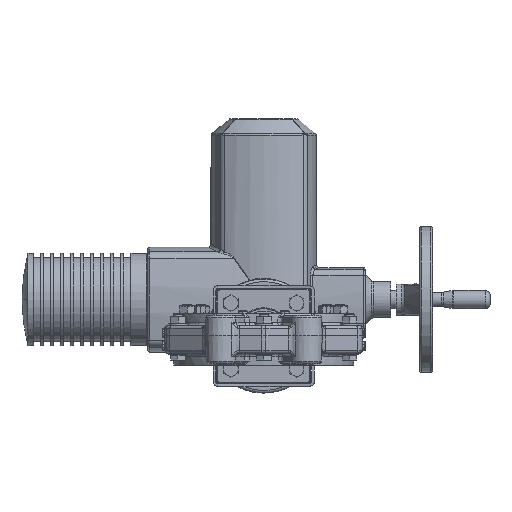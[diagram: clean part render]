
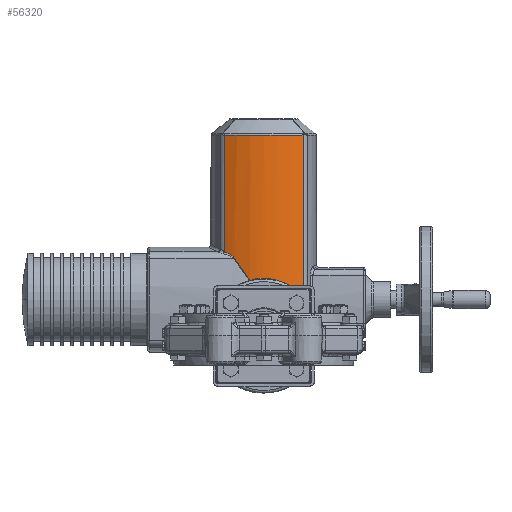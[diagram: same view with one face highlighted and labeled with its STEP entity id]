
A CAD part, front view. The second image highlights one B-rep face of the part: STEP entity #56320.
In plain terms, the highlighted cylindrical face has radius 100 mm (diameter 200 mm), a partial arc.
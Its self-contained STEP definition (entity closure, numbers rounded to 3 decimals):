
#1783 = VERTEX_POINT ( 'NONE', #87740 ) ;
#3757 = DIRECTION ( 'NONE',  ( -1., 0., 0. ) ) ;
#5145 = LINE ( 'NONE', #8632, #95903 ) ;
#8632 = CARTESIAN_POINT ( 'NONE',  ( 43.041, 515.737, 237.75 ) ) ;
#10654 = CARTESIAN_POINT ( 'NONE',  ( -5.794, 506.161, 62.927 ) ) ;
#11177 = CARTESIAN_POINT ( 'NONE',  ( 23.143, 508.713, 57.404 ) ) ;
#13223 = VERTEX_POINT ( 'NONE', #15262 ) ;
#14229 = EDGE_CURVE ( 'NONE', #56483, #71520, #28510, .T. ) ;
#15262 = CARTESIAN_POINT ( 'NONE',  ( 43.041, 515.737, 44.194 ) ) ;
#22304 = CARTESIAN_POINT ( 'NONE',  ( -43.041, 515.737, 92.391 ) ) ;
#22507 = CARTESIAN_POINT ( 'NONE',  ( -2.243, 506.018, 63.226 ) ) ;
#23015 = CARTESIAN_POINT ( 'NONE',  ( 24.662, 509.087, 56.561 ) ) ;
#23443 = CARTESIAN_POINT ( 'NONE',  ( -39.094, 513.952, 90.65 ) ) ;
#28497 = CARTESIAN_POINT ( 'NONE',  ( 38.764, 513.818, 46.82 ) ) ;
#28510 = LINE ( 'NONE', #49576, #60045 ) ;
#29827 = FACE_OUTER_BOUND ( 'NONE', #41028, .T. ) ;
#31120 = CARTESIAN_POINT ( 'NONE',  ( 36.862, 513.041, 47.327 ) ) ;
#31451 = AXIS2_PLACEMENT_3D ( 'NONE', #44647, #127582, #56555 ) ;
#31632 = CARTESIAN_POINT ( 'NONE',  ( 37.328, 513.227, 47.213 ) ) ;
#32272 = ORIENTED_EDGE ( 'NONE', *, *, #112532, .F. ) ;
#32645 = VERTEX_POINT ( 'NONE', #69737 ) ;
#33844 = CARTESIAN_POINT ( 'NONE',  ( -12.724, 506.787, 61.609 ) ) ;
#34367 = CARTESIAN_POINT ( 'NONE',  ( 3.673, 506.04, 63.181 ) ) ;
#34904 = CARTESIAN_POINT ( 'NONE',  ( 27.641, 509.874, 54.766 ) ) ;
#34988 = ORIENTED_EDGE ( 'NONE', *, *, #54579, .T. ) ;
#35322 = CARTESIAN_POINT ( 'NONE',  ( -36.228, 512.787, 89.011 ) ) ;
#35571 = B_SPLINE_CURVE_WITH_KNOTS ( 'NONE', 3,
 ( #146664, #75655, #28497, #111458, #40426, #123375, #52352, #135284 ),
 .UNSPECIFIED., .F., .F.,
 ( 4, 2, 2, 4 ),
 ( 0., 0.002, 0.003, 0.007 ),
 .UNSPECIFIED. ) ;
#39351 = ORIENTED_EDGE ( 'NONE', *, *, #122090, .T. ) ;
#40426 = CARTESIAN_POINT ( 'NONE',  ( 40.164, 514.419, 46.232 ) ) ;
#41028 = EDGE_LOOP ( 'NONE', ( #124566, #121531, #76295, #135387, #34988, #47719, #32272, #39351 ) ) ;
#43363 = CARTESIAN_POINT ( 'NONE',  ( -14.967, 507.126, 60.881 ) ) ;
#44647 = CARTESIAN_POINT ( 'NONE',  ( 0., 606., 220.035 ) ) ;
#46320 = CARTESIAN_POINT ( 'NONE',  ( 8.354, 506.343, 62.546 ) ) ;
#46525 = CARTESIAN_POINT ( 'NONE',  ( -14.967, 507.126, 60.881 ) ) ;
#46530 = CYLINDRICAL_SURFACE ( 'NONE', #63464, 100. ) ;
#46830 = CARTESIAN_POINT ( 'NONE',  ( 33.093, 511.616, 50.604 ) ) ;
#47160 = EDGE_CURVE ( 'NONE', #151602, #1783, #58113, .T. ) ;
#47274 = CARTESIAN_POINT ( 'NONE',  ( -33.985, 511.951, 87.329 ) ) ;
#47719 = ORIENTED_EDGE ( 'NONE', *, *, #128928, .T. ) ;
#49576 = CARTESIAN_POINT ( 'NONE',  ( -43.041, 515.737, 237.75 ) ) ;
#52352 = CARTESIAN_POINT ( 'NONE',  ( 42.296, 515.381, 44.907 ) ) ;
#53088 = VERTEX_POINT ( 'NONE', #63115 ) ;
#54579 = EDGE_CURVE ( 'NONE', #1783, #138947, #151344, .T. ) ;
#54994 = CARTESIAN_POINT ( 'NONE',  ( 36.396, 512.858, 47.439 ) ) ;
#56320 = ADVANCED_FACE ( 'NONE', ( #29827 ), #46530, .T. ) ;
#56483 = VERTEX_POINT ( 'NONE', #138325 ) ;
#56555 = DIRECTION ( 'NONE',  ( 1., 0., 0. ) ) ;
#58113 = B_SPLINE_CURVE_WITH_KNOTS ( 'NONE', 3,
 ( #116835, #33844, #152492, #81516, #10654, #93440, #22507, #105391, #34367, #117343, #46320, #129287, #58219, #141167, #70117, #153017, #82031, #11177, #93955, #23015, #105904, #34904, #117856, #46830, #129791, #58737 ),
 .UNSPECIFIED., .F., .F.,
 ( 4, 2, 2, 2, 2, 2, 2, 2, 2, 2, 2, 2, 4 ),
 ( 0., 0.007, 0.011, 0.014, 0.021, 0.025, 0.028, 0.035, 0.039, 0.041, 0.042, 0.05, 0.057 ),
 .UNSPECIFIED. ) ;
#58219 = CARTESIAN_POINT ( 'NONE',  ( 11.825, 506.695, 61.802 ) ) ;
#58737 = CARTESIAN_POINT ( 'NONE',  ( 36.396, 512.858, 47.439 ) ) ;
#59170 = CARTESIAN_POINT ( 'NONE',  ( -32.772, 511.521, 86.153 ) ) ;
#60045 = VECTOR ( 'NONE', #120075, 1000. ) ;
#62474 = CARTESIAN_POINT ( 'NONE',  ( 37.791, 513.416, 47.097 ) ) ;
#63115 = CARTESIAN_POINT ( 'NONE',  ( 43.041, 515.737, 220.035 ) ) ;
#63464 = AXIS2_PLACEMENT_3D ( 'NONE', #97950, #109919, #3757 ) ;
#69737 = CARTESIAN_POINT ( 'NONE',  ( -32.064, 511.28, 85.242 ) ) ;
#70117 = CARTESIAN_POINT ( 'NONE',  ( 17.386, 507.499, 60.082 ) ) ;
#71062 = CARTESIAN_POINT ( 'NONE',  ( -32.064, 511.28, 85.242 ) ) ;
#71520 = VERTEX_POINT ( 'NONE', #22304 ) ;
#75655 = CARTESIAN_POINT ( 'NONE',  ( 38.283, 513.617, 46.974 ) ) ;
#76295 = ORIENTED_EDGE ( 'NONE', *, *, #113598, .T. ) ;
#79511 = DIRECTION ( 'NONE',  ( 0., 0., -1. ) ) ;
#81516 = CARTESIAN_POINT ( 'NONE',  ( -6.964, 506.236, 62.77 ) ) ;
#82031 = CARTESIAN_POINT ( 'NONE',  ( 21.604, 508.356, 58.202 ) ) ;
#87740 = CARTESIAN_POINT ( 'NONE',  ( 36.396, 512.858, 47.439 ) ) ;
#93440 = CARTESIAN_POINT ( 'NONE',  ( -3.436, 506.052, 63.155 ) ) ;
#93647 = CARTESIAN_POINT ( 'NONE',  ( -32.064, 511.28, 85.242 ) ) ;
#93955 = CARTESIAN_POINT ( 'NONE',  ( 23.652, 508.836, 57.129 ) ) ;
#94373 = CARTESIAN_POINT ( 'NONE',  ( -41.052, 514.808, 91.582 ) ) ;
#95903 = VECTOR ( 'NONE', #79511, 1000. ) ;
#97950 = CARTESIAN_POINT ( 'NONE',  ( 0., 606., 237.75 ) ) ;
#102604 = B_SPLINE_CURVE_WITH_KNOTS ( 'NONE', 3,
 ( #93647, #105601, #117546, #46525 ),
 .UNSPECIFIED., .F., .F.,
 ( 4, 4 ),
 ( 0., 0.03 ),
 .UNSPECIFIED. ) ;
#105391 = CARTESIAN_POINT ( 'NONE',  ( 1.316, 505.981, 63.304 ) ) ;
#105601 = CARTESIAN_POINT ( 'NONE',  ( -26.44, 509.376, 77.158 ) ) ;
#105904 = CARTESIAN_POINT ( 'NONE',  ( 25.164, 509.217, 56.268 ) ) ;
#106329 = CARTESIAN_POINT ( 'NONE',  ( -38.126, 513.548, 90.142 ) ) ;
#109919 = DIRECTION ( 'NONE',  ( 0., 0., -1. ) ) ;
#111458 = CARTESIAN_POINT ( 'NONE',  ( 39.706, 514.219, 46.448 ) ) ;
#112532 = EDGE_CURVE ( 'NONE', #53088, #13223, #5145, .T. ) ;
#113598 = EDGE_CURVE ( 'NONE', #32645, #151602, #102604, .T. ) ;
#114602 = CARTESIAN_POINT ( 'NONE',  ( 37.791, 513.416, 47.097 ) ) ;
#116835 = CARTESIAN_POINT ( 'NONE',  ( -14.967, 507.126, 60.881 ) ) ;
#117253 = CARTESIAN_POINT ( 'NONE',  ( -42.042, 515.26, 92.005 ) ) ;
#117343 = CARTESIAN_POINT ( 'NONE',  ( 7.186, 506.252, 62.737 ) ) ;
#117546 = CARTESIAN_POINT ( 'NONE',  ( -20.733, 507.999, 69.042 ) ) ;
#117856 = CARTESIAN_POINT ( 'NONE',  ( 29.519, 510.438, 53.45 ) ) ;
#118288 = CARTESIAN_POINT ( 'NONE',  ( -35.292, 512.43, 88.385 ) ) ;
#120075 = DIRECTION ( 'NONE',  ( 0., 0., -1. ) ) ;
#121531 = ORIENTED_EDGE ( 'NONE', *, *, #145867, .T. ) ;
#122090 = EDGE_CURVE ( 'NONE', #53088, #56483, #140522, .T. ) ;
#123375 = CARTESIAN_POINT ( 'NONE',  ( 41.482, 515.005, 45.502 ) ) ;
#124566 = ORIENTED_EDGE ( 'NONE', *, *, #14229, .T. ) ;
#127582 = DIRECTION ( 'NONE',  ( 0., 0., -1. ) ) ;
#128928 = EDGE_CURVE ( 'NONE', #138947, #13223, #35571, .T. ) ;
#129287 = CARTESIAN_POINT ( 'NONE',  ( 10.68, 506.565, 62.077 ) ) ;
#129791 = CARTESIAN_POINT ( 'NONE',  ( 34.788, 512.23, 49.074 ) ) ;
#130214 = CARTESIAN_POINT ( 'NONE',  ( -33.565, 511.8, 86.957 ) ) ;
#135284 = CARTESIAN_POINT ( 'NONE',  ( 43.041, 515.737, 44.194 ) ) ;
#135387 = ORIENTED_EDGE ( 'NONE', *, *, #47160, .T. ) ;
#138325 = CARTESIAN_POINT ( 'NONE',  ( -43.041, 515.737, 220.035 ) ) ;
#138947 = VERTEX_POINT ( 'NONE', #62474 ) ;
#140522 = CIRCLE ( 'NONE', #31451, 100. ) ;
#141167 = CARTESIAN_POINT ( 'NONE',  ( 15.204, 507.137, 60.862 ) ) ;
#141577 = CARTESIAN_POINT ( 'NONE',  ( -43.041, 515.737, 92.391 ) ) ;
#142109 = CARTESIAN_POINT ( 'NONE',  ( -32.398, 511.393, 85.723 ) ) ;
#143480 = B_SPLINE_CURVE_WITH_KNOTS ( 'NONE', 3,
 ( #141577, #117253, #94373, #23443, #106329, #35322, #118288, #47274, #130214, #59170, #142109, #71062 ),
 .UNSPECIFIED., .F., .F.,
 ( 4, 2, 2, 2, 2, 4 ),
 ( 0., 0.003, 0.007, 0.01, 0.012, 0.014 ),
 .UNSPECIFIED. ) ;
#145867 = EDGE_CURVE ( 'NONE', #71520, #32645, #143480, .T. ) ;
#146664 = CARTESIAN_POINT ( 'NONE',  ( 37.791, 513.416, 47.097 ) ) ;
#151344 = B_SPLINE_CURVE_WITH_KNOTS ( 'NONE', 3,
 ( #54994, #31120, #31632, #114602 ),
 .UNSPECIFIED., .F., .F.,
 ( 4, 4 ),
 ( 0.008, 0.009 ),
 .UNSPECIFIED. ) ;
#151602 = VERTEX_POINT ( 'NONE', #43363 ) ;
#152492 = CARTESIAN_POINT ( 'NONE',  ( -10.443, 506.52, 62.174 ) ) ;
#153017 = CARTESIAN_POINT ( 'NONE',  ( 20.562, 508.131, 58.699 ) ) ;
